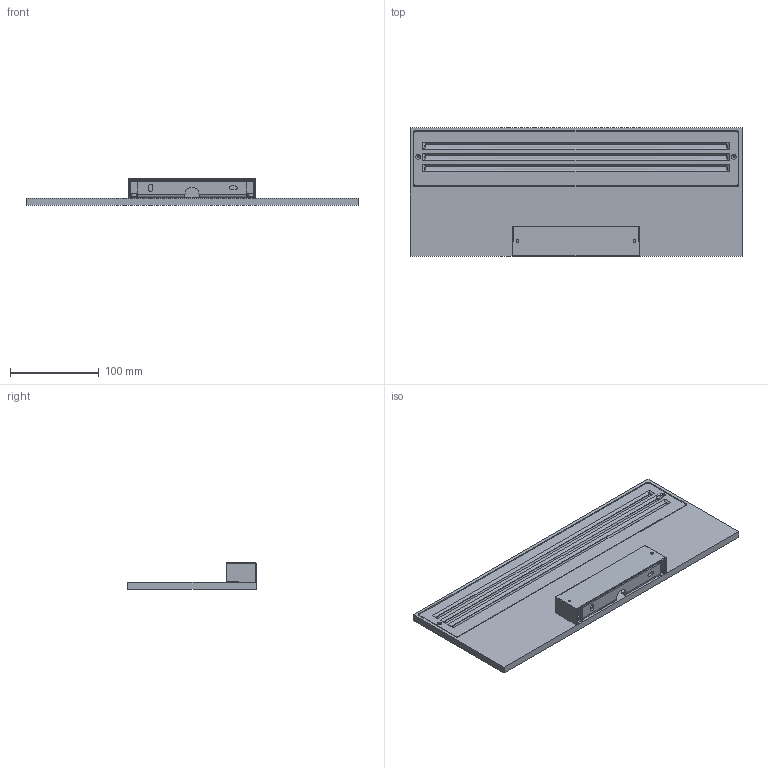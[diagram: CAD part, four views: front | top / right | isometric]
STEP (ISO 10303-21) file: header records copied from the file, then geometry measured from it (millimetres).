
FILE_DESCRIPTION((''),'2;1');
FILE_NAME('SOTTILE380','2025-05-13T14:07:17',('elena.baldelli'),(''),'CREO PARAMETRIC BY PTC INC, 2020354','CREO PARAMETRIC BY PTC INC, 2020354','');
FILE_SCHEMA(('CONFIG_CONTROL_DESIGN'));
Length unit declared in the file: millimetre
Products named in the file (1): SOTTILE380
Bounding box: 375 x 145 x 30.29 mm (x, y, z)
Surface area: 143394.4 mm2 (no closed solid volume)
Topology: 0 solids, 37 shells, 224 faces, 827 edges, 632 vertices
Faces by surface type: cylinder 82, plane 66, torus 36, bspline 14, cone 12, extrusion 10, sphere 4
Entity records: 12346 total; most frequent: CARTESIAN_POINT 5979, DIRECTION 1193, ORIENTED_EDGE 1132, EDGE_CURVE 827, VERTEX_POINT 632, AXIS2_PLACEMENT_3D 436, VECTOR 321, LINE 311
